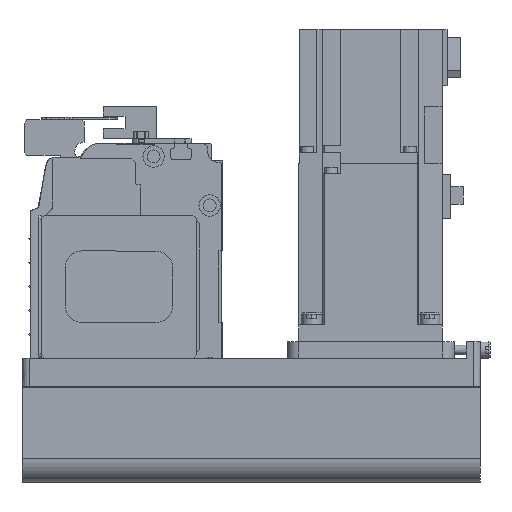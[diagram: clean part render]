
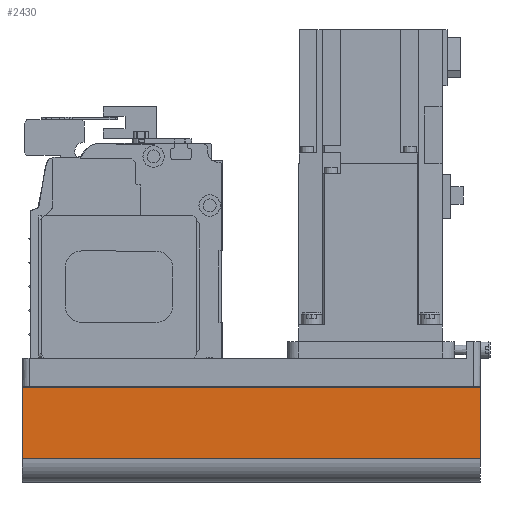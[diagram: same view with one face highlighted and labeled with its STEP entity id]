
A CAD part, left-side view. The second image highlights one B-rep face of the part: STEP entity #2430.
In plain terms, the highlighted planar face has unit normal (-1, 0, 0) as drawn and (0, 1, 0) by its records, which use the part's own axes.
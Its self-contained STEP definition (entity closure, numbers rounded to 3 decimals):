
#2430 = ADVANCED_FACE( '', ( #5033 ), #5034, .T. );
#5033 = FACE_OUTER_BOUND( '', #7617, .T. );
#5034 = PLANE( '', #7618 );
#7617 = EDGE_LOOP( '', ( #14203, #14204, #14205, #14206 ) );
#7618 = AXIS2_PLACEMENT_3D( '', #14207, #14208, #14209 );
#14203 = ORIENTED_EDGE( '', *, *, #16872, .F. );
#14204 = ORIENTED_EDGE( '', *, *, #16354, .F. );
#14205 = ORIENTED_EDGE( '', *, *, #14766, .T. );
#14206 = ORIENTED_EDGE( '', *, *, #14827, .T. );
#14207 = CARTESIAN_POINT( '', ( -192., 40., -42. ) );
#14208 = DIRECTION( '', ( 0., 1., 0. ) );
#14209 = DIRECTION( '', ( 0., 0., 1. ) );
#14766 = EDGE_CURVE( '', #17638, #17635, #17639, .T. );
#14827 = EDGE_CURVE( '', #17635, #17745, #17746, .T. );
#16354 = EDGE_CURVE( '', #17638, #20066, #20069, .T. );
#16872 = EDGE_CURVE( '', #20066, #17745, #20682, .T. );
#17635 = VERTEX_POINT( '', #21656 );
#17638 = VERTEX_POINT( '', #21660 );
#17639 = LINE( '', #21661, #21662 );
#17745 = VERTEX_POINT( '', #21799 );
#17746 = LINE( '', #21800, #21801 );
#20066 = VERTEX_POINT( '', #24901 );
#20069 = LINE( '', #24905, #24906 );
#20682 = LINE( '', #25712, #25713 );
#21656 = CARTESIAN_POINT( '', ( -192., 40., -12.1 ) );
#21660 = CARTESIAN_POINT( '', ( -192., 40., -42. ) );
#21661 = CARTESIAN_POINT( '', ( -192., 40., -42. ) );
#21662 = VECTOR( '', #26310, 1000. );
#21799 = CARTESIAN_POINT( '', ( 0., 40., -12.1 ) );
#21800 = CARTESIAN_POINT( '', ( -192., 40., -12.1 ) );
#21801 = VECTOR( '', #26396, 1000. );
#24901 = CARTESIAN_POINT( '', ( 0., 40., -42. ) );
#24905 = CARTESIAN_POINT( '', ( -192., 40., -42. ) );
#24906 = VECTOR( '', #28252, 1000. );
#25712 = CARTESIAN_POINT( '', ( 0., 40., -42. ) );
#25713 = VECTOR( '', #28716, 1000. );
#26310 = DIRECTION( '', ( 0., 0., 1. ) );
#26396 = DIRECTION( '', ( 1., 0., 0. ) );
#28252 = DIRECTION( '', ( 1., 0., 0. ) );
#28716 = DIRECTION( '', ( 0., 0., 1. ) );
